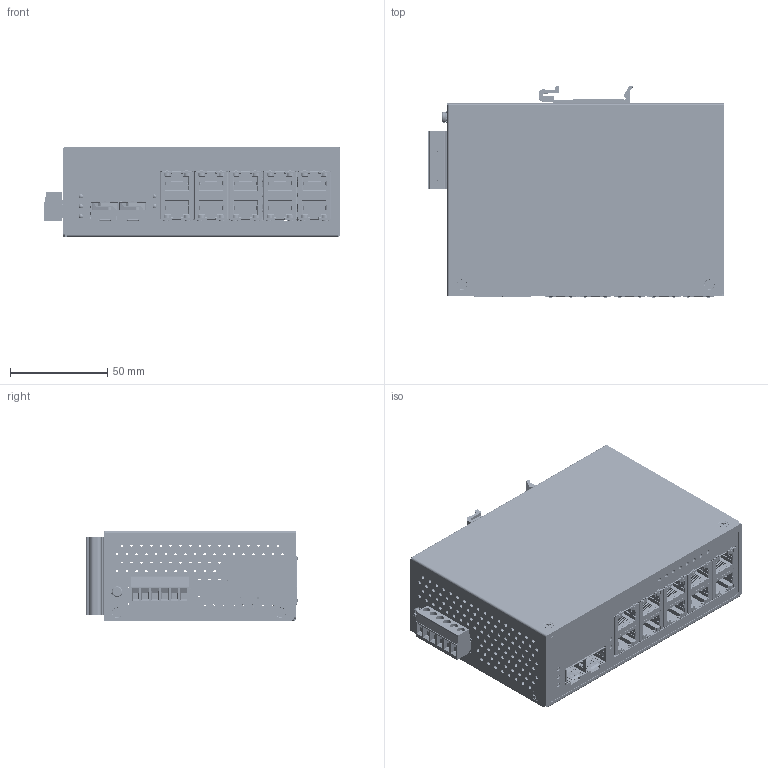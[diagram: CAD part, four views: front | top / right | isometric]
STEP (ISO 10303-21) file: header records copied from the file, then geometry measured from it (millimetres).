
FILE_DESCRIPTION( ( '' ), ' ' );
FILE_NAME( '/vol/tmp/translate-19409977114154347/5e628b99613c7b12e65e8728.step', '2020-03-06T17:42:57', ( '' ), ( '' ), ' ', ' ', ' ' );
FILE_SCHEMA( ( 'AUTOMOTIVE_DESIGN { 1 0 10303 214 1 1 1 1 }' ) );
Length unit declared in the file: metre
Products named in the file (108): RJ_5_LED; RJ_5_R; RJ_5_BOT; RJ_FRAME; RJ_5_HSNG; RJ_5_DIV; RJ_5_FRT; RJ_4_LED; RJ_4_R; RJ_4_BOT; RJ_4_HSNG; RJ_4_DIV; RJ_4_FRT; RJ_3_LED; RJ_3_R; RJ_3_BOT; RJ_3_HSNG; RJ_3_DIV; RJ_3_FRT; RJ_2_LED; RJ_2_R; RJ_2_BOT; RJ_2_HSNG; RJ_2_DIV; RJ_2_FRT; RJ_1_LED; RJ_1_R; RJ_1_BASE; RJ_1_HSNG; RJ_1_DIV; RJ_1_FRT; HEADER; SFP; LED_2; LED_1; FRONT_HOUSING; HSNG_REAR; CONN_COMP; CONN; DIN_CLIP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
Bounding box: 151.91 x 108.45 x 46 mm (x, y, z)
Volume: 45600.6 mm3; surface area: 215609.4 mm2
Topology: 62 solids, 3832 shells, 15308 faces, 54051 edges, 42315 vertices
Faces by surface type: plane 10638, cylinder 3560, torus 490, bspline 244, sphere 196, cone 154, extrusion 26
Full cylindrical faces by diameter (mm): 0.5 x12, 0.6 x5, 1.4 x6, 1.5 x1, 1.9 x245, 2 x62, 2.2 x8, 2.3 x3, 2.8 x10, 2.9 x8, 3 x25, 3.15 x10, 3.2 x6, 3.5 x7, 3.783 x6, 4 x17, 5 x19, 5.5 x1
Entity records: 718719 total; most frequent: CARTESIAN_POINT 139909, DIRECTION 91083, ORIENTED_EDGE 84276, EDGE_CURVE 53112, VERTEX_POINT 42069, VECTOR 41237, LINE 41211, AXIS2_PLACEMENT_3D 24923
